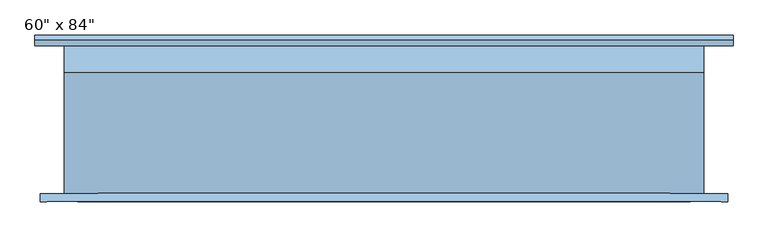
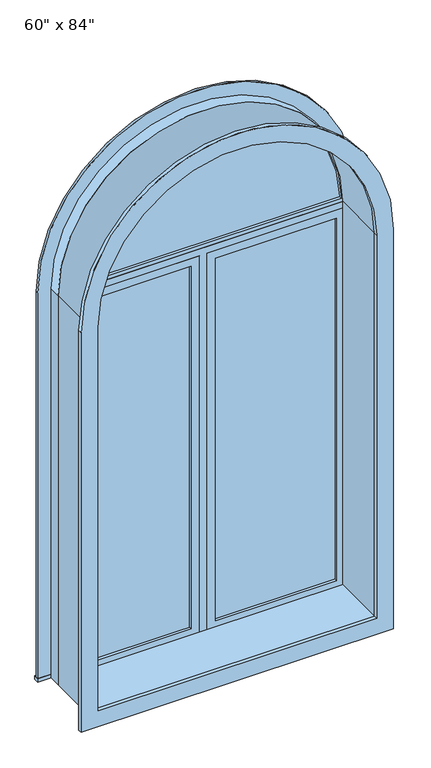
"""IFC4 building model written with IfcOpenShell, lengths in millimetres: window geometry."""

from ifc_helpers import new_model, si_unit, point, frame, frame_2d, origin, place, context, project, spatial, polyline, circle_curve, trimmed, segment, composite_curve, outline, extrude, source, transform, mapped, element, save


def window_8b7055c8(model_context):
    return source(origin(), model_context, "Body", "SweptSolid", [
        extrude(outline(composite_curve([segment(polyline([(2457.45, -811.1478419), (247.65, -811.1478419), (247.65, 827.1521581), (2457.45, 827.1521581)]), True, "CONTINUOUS"), segment(trimmed(circle_curve(frame_2d((2457.45, 8.0021581)), 819.15), [point((2457.45, 827.1521581))], [point((2457.45, -811.1478419))], False, "CARTESIAN"), True, "CONTINUOUS")], self_intersect=False), holes=[composite_curve([segment(trimmed(circle_curve(frame_2d((2457.45, 8.0021581)), 730.25), [point((2457.45, -722.2478419))], [point((2457.45, 738.2521581))], True, "CARTESIAN"), True, "CONTINUOUS"), segment(polyline([(2457.45, 738.2521581), (336.55, 738.2521581), (336.55, -722.2478419), (2457.45, -722.2478419)]), True, "CONTINUOUS")], self_intersect=False)]), frame((0.0, -195.2625, 0.0), z_axis=(0.0, 1.0, 0.0), x_axis=(0.0, 0.0, 1.0)), (0.0, 0.0, 1.0), 19.05),
        extrude(outline(composite_curve([segment(trimmed(circle_curve(frame_2d((2457.45, 8.0021581)), 723.8331362), [point((2476.4999995, 731.5845699))], [point((2476.4999995, -715.5802537))], False, "CARTESIAN"), True, "CONTINUOUS"), segment(polyline([(2476.4999995, -715.5802537), (2476.4999995, 731.5845699)]), True, "CONTINUOUS")], self_intersect=False)), frame((0.0, 128.5875, 0.0), z_axis=(0.0, 1.0, 0.0), x_axis=(0.0, 0.0, 1.0)), (0.0, 0.0, 1.0), 12.7),
        extrude(outline(composite_curve([segment(trimmed(circle_curve(frame_2d((2457.45, 8.0021581)), 742.95), [point((2457.45, 750.9521581))], [point((2457.45, -734.9478419))], False, "CARTESIAN"), True, "CONTINUOUS"), segment(polyline([(2457.45, -734.9478419), (2457.45, 750.9521581)]), True, "CONTINUOUS")], self_intersect=False), holes=[composite_curve([segment(polyline([(2476.4999995, 731.5845698), (2476.4999995, -715.5802537)]), True, "CONTINUOUS"), segment(trimmed(circle_curve(frame_2d((2457.45, 8.0021581)), 723.8331362), [point((2476.4999995, -715.5802537))], [point((2476.4999995, 731.5845698))], True, "CARTESIAN"), True, "CONTINUOUS")], self_intersect=False)]), frame((0.0, 112.7125, 0.0), z_axis=(0.0, 1.0, 0.0), x_axis=(0.0, 0.0, 1.0)), (0.0, 0.0, 1.0), 44.45),
        extrude(outline(composite_curve([segment(polyline([(304.8, -753.9978419), (304.8, 770.0021581), (2457.45, 770.0021581)]), True, "CONTINUOUS"), segment(trimmed(circle_curve(frame_2d((2457.45, 8.0021581)), 762.0), [point((2457.45, 770.0021581))], [point((2457.45, -753.9978419))], False, "CARTESIAN"), True, "CONTINUOUS"), segment(polyline([(2457.45, -753.9978419), (304.8, -753.9978419)]), True, "CONTINUOUS")], self_intersect=False), holes=[composite_curve([segment(polyline([(323.85, -734.9478419), (2457.45, -734.9478419)]), True, "CONTINUOUS"), segment(trimmed(circle_curve(frame_2d((2457.45, 8.0021581)), 742.95), [point((2457.45, -734.9478419))], [point((2457.45, 750.9521581))], True, "CARTESIAN"), True, "CONTINUOUS"), segment(polyline([(2457.45, 750.9521581), (323.85, 750.9521581), (323.85, -734.9478419)]), True, "CONTINUOUS")], self_intersect=False)]), frame((0.0, 112.7125, 0.0), z_axis=(0.0, 1.0, 0.0), x_axis=(0.0, 0.0, 1.0)), (0.0, 0.0, 1.0), 63.5),
        extrude(outline(polyline([(71.5021581, 141.2875), (706.5021581, 141.2875), (706.5021581, 128.5875), (71.5021581, 128.5875), (71.5021581, 141.2875)])), frame((0.0, 0.0, 368.3), z_axis=(0.0, 0.0, 1.0), x_axis=(1.0, 0.0, 0.0)), (0.0, 0.0, 1.0), 2006.6),
        extrude(outline(polyline([(2419.35, 27.0521581), (323.85, 27.0521581), (323.85, 750.9521581), (2419.35, 750.9521581), (2419.35, 27.0521581)]), holes=[polyline([(2374.9, 71.5021581), (2374.9, 706.5021581), (368.3, 706.5021581), (368.3, 71.5021581), (2374.9, 71.5021581)])]), frame((0.0, 112.7125, 0.0), z_axis=(0.0, 1.0, 0.0), x_axis=(0.0, 0.0, 1.0)), (0.0, 0.0, 1.0), 44.45),
        extrude(outline(polyline([(323.85, -11.0478419), (323.85, 27.0521581), (2419.35, 27.0521581), (2419.35, 750.9521581), (2457.45, 750.9521581), (2457.45, -734.9478419), (2419.35, -734.9478419), (2419.35, -11.0478419), (323.85, -11.0478419)])), frame((0.0, 112.7125, 0.0), z_axis=(0.0, 1.0, 0.0), x_axis=(0.0, 0.0, 1.0)), (0.0, 0.0, 1.0), 63.5),
        extrude(outline(polyline([(-823.8478419, 201.6125), (839.8521581, 201.6125), (839.8521581, 176.2125), (-823.8478419, 176.2125), (-823.8478419, 201.6125)])), frame((0.0, 0.0, 304.8), z_axis=(0.0, 0.0, 1.0), x_axis=(1.0, 0.0, 0.0)), (0.0, 0.0, 1.0), 19.05),
        extrude(outline(composite_curve([segment(polyline([(323.85, 750.9521581), (323.85, 839.8521581), (2457.45, 839.8521581)]), True, "CONTINUOUS"), segment(trimmed(circle_curve(frame_2d((2457.45, 8.0021581)), 831.85), [point((2457.45, 839.8521581))], [point((2457.45, -823.8478419))], False, "CARTESIAN"), True, "CONTINUOUS"), segment(polyline([(2457.45, -823.8478419), (323.85, -823.8478419), (323.85, -734.9478419), (2457.45, -734.9478419)]), True, "CONTINUOUS"), segment(trimmed(circle_curve(frame_2d((2457.45, 8.0021581)), 742.95), [point((2457.45, -734.9478419))], [point((2457.45, 750.9521581))], True, "CARTESIAN"), True, "CONTINUOUS"), segment(polyline([(2457.45, 750.9521581), (323.85, 750.9521581)]), True, "CONTINUOUS")], self_intersect=False)), frame((0.0, 176.2125, 0.0), z_axis=(0.0, 1.0, 0.0), x_axis=(0.0, 0.0, 1.0)), (0.0, 0.0, 1.0), 12.7),
        extrude(outline(polyline([(-55.4978419, 128.5875), (-690.4978419, 128.5875), (-690.4978419, 141.2875), (-55.4978419, 141.2875), (-55.4978419, 128.5875)])), frame((0.0, 0.0, 368.3), z_axis=(0.0, 0.0, 1.0), x_axis=(1.0, 0.0, 0.0)), (0.0, 0.0, 1.0), 2006.6),
        extrude(outline(polyline([(2419.35, -734.9478419), (323.85, -734.9478419), (323.85, -11.0478419), (2419.35, -11.0478419), (2419.35, -734.9478419)]), holes=[polyline([(2374.9, -690.4978419), (2374.9, -55.4978419), (368.3, -55.4978419), (368.3, -690.4978419), (2374.9, -690.4978419)])]), frame((0.0, 112.7125, 0.0), z_axis=(0.0, 1.0, 0.0), x_axis=(0.0, 0.0, 1.0)), (0.0, 0.0, 1.0), 44.45),
        extrude(outline(composite_curve([segment(polyline([(304.8, 770.0021581), (2457.45, 770.0021581)]), True, "CONTINUOUS"), segment(trimmed(circle_curve(frame_2d((2457.45, 8.0021581)), 762.0), [point((2457.45, 770.0021581))], [point((2457.45, -753.9978419))], False, "CARTESIAN"), True, "CONTINUOUS"), segment(polyline([(2457.45, -753.9978419), (304.8, -753.9978419), (304.8, 770.0021581)]), True, "CONTINUOUS")], self_intersect=False), holes=[composite_curve([segment(polyline([(336.55, 738.2521581), (336.55, -722.2478419), (2457.45, -722.2478419)]), True, "CONTINUOUS"), segment(trimmed(circle_curve(frame_2d((2457.45, 8.0021581)), 730.25), [point((2457.45, -722.2478419))], [point((2457.45, 738.2521581))], True, "CARTESIAN"), True, "CONTINUOUS"), segment(polyline([(2457.45, 738.2521581), (336.55, 738.2521581)]), True, "CONTINUOUS")], self_intersect=False)]), frame((0.0, -176.2125, 0.0), z_axis=(0.0, 1.0, 0.0), x_axis=(0.0, 0.0, 1.0)), (0.0, 0.0, 1.0), 288.925),
    ])


if __name__ == "__main__":
    model = new_model("IFC4")
    model_context = context("Model", 3, world=origin())
    ifc_project = project(units=[si_unit("LENGTHUNIT", "METRE", prefix="MILLI")], contexts=[model_context])
    site = spatial("IfcSite", under=ifc_project)
    building = spatial("IfcBuilding", under=site)
    placement = place(None, origin())
    window_shape = window_8b7055c8(model_context)
    element("IfcWindow", 1, ObjectType="Combination Rtp with Trim : 60\" x 84\"", at=placement, inside=building, context=model_context, shape_type="MappedRepresentation", body=[
        mapped(window_shape, transform((0.0, 0.0, 0.0), x_axis=(1.0, 0.0, 0.0), y_axis=(0.0, 1.0, 0.0), z_axis=(0.0, 0.0, 1.0))),
    ])
    save(model, "model.ifc")
